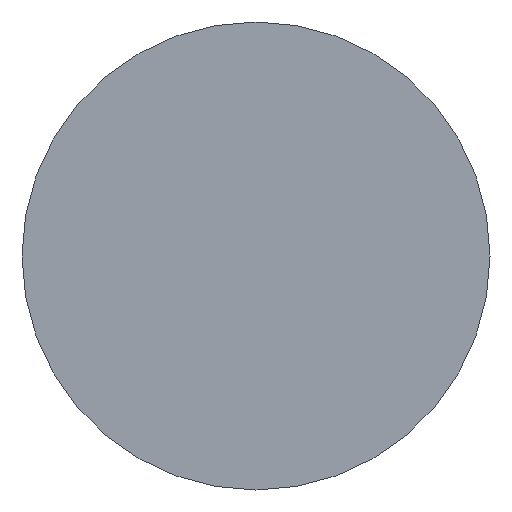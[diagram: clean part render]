
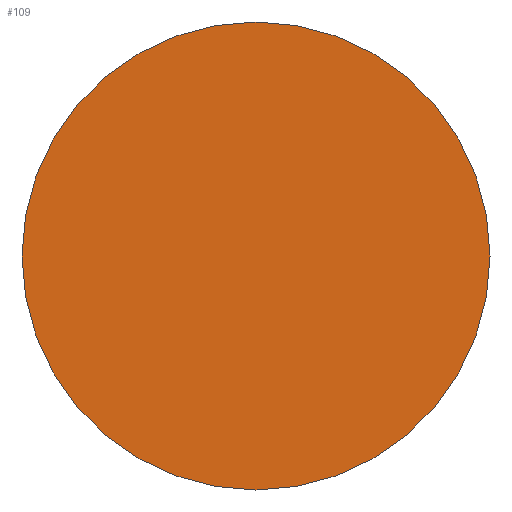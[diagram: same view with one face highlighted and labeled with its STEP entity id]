
A CAD part, front view. The second image highlights one B-rep face of the part: STEP entity #109.
In plain terms, the highlighted planar face has unit normal (0, -1, 0).
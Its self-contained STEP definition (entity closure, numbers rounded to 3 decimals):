
#24 = VERTEX_POINT('',#25);
#25 = CARTESIAN_POINT('',(8.5,-56.35,0.3));
#32 = CYLINDRICAL_SURFACE('',#33,8.5);
#33 = AXIS2_PLACEMENT_3D('',#34,#35,#36);
#34 = CARTESIAN_POINT('',(0.,-54.55,0.3));
#35 = DIRECTION('',(-0.,1.,-0.));
#36 = DIRECTION('',(1.,0.,0.));
#51 = EDGE_CURVE('',#24,#24,#52,.T.);
#52 = SURFACE_CURVE('',#53,(#58,#65),.PCURVE_S1.);
#53 = CIRCLE('',#54,8.5);
#54 = AXIS2_PLACEMENT_3D('',#55,#56,#57);
#55 = CARTESIAN_POINT('',(0.,-56.35,0.3));
#56 = DIRECTION('',(0.,-1.,0.));
#57 = DIRECTION('',(1.,0.,0.));
#58 = PCURVE('',#32,#59);
#59 = DEFINITIONAL_REPRESENTATION('',(#60),#64);
#60 = LINE('',#61,#62);
#61 = CARTESIAN_POINT('',(-0.,-1.8));
#62 = VECTOR('',#63,1.);
#63 = DIRECTION('',(-1.,0.));
#64 = ( GEOMETRIC_REPRESENTATION_CONTEXT(2) 
PARAMETRIC_REPRESENTATION_CONTEXT() REPRESENTATION_CONTEXT('2D SPACE',''
  ) );
#65 = PCURVE('',#66,#71);
#66 = PLANE('',#67);
#67 = AXIS2_PLACEMENT_3D('',#68,#69,#70);
#68 = CARTESIAN_POINT('',(0.,-56.35,0.3));
#69 = DIRECTION('',(-0.,-1.,-0.));
#70 = DIRECTION('',(0.,0.,-1.));
#71 = DEFINITIONAL_REPRESENTATION('',(#72),#76);
#72 = CIRCLE('',#73,8.5);
#73 = AXIS2_PLACEMENT_2D('',#74,#75);
#74 = CARTESIAN_POINT('',(0.,0.));
#75 = DIRECTION('',(0.,1.));
#76 = ( GEOMETRIC_REPRESENTATION_CONTEXT(2) 
PARAMETRIC_REPRESENTATION_CONTEXT() REPRESENTATION_CONTEXT('2D SPACE',''
  ) );
#109 = ADVANCED_FACE('',(#110),#66,.T.);
#110 = FACE_BOUND('',#111,.T.);
#111 = EDGE_LOOP('',(#112));
#112 = ORIENTED_EDGE('',*,*,#51,.T.);
